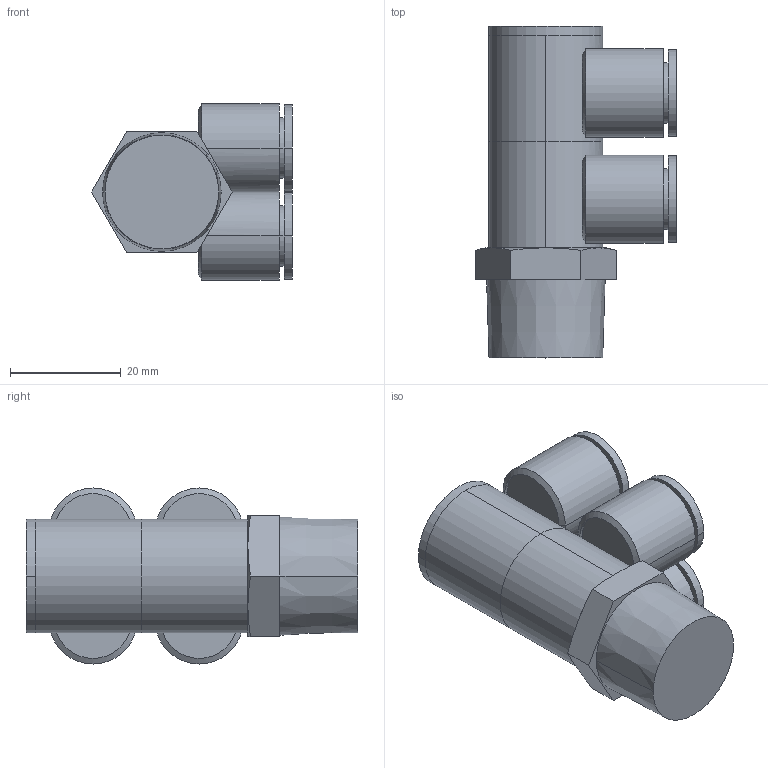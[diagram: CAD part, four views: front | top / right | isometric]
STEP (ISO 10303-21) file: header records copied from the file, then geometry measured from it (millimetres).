
FILE_DESCRIPTION (( 'STEP AP203' ), '1' );
FILE_NAME ('FZD10-04.STEP', '2020-05-11T14:49:35', ( '' ), ( '' ), 'SwSTEP 2.0', 'SolidWorks 2019', '' );
FILE_SCHEMA (( 'CONFIG_CONTROL_DESIGN' ));
Length unit declared in the file: millimetre
Products named in the file (1): FZD10-04
Bounding box: 36.3 x 60 x 31.85 mm (x, y, z)
Volume: 27740.6 mm3; surface area: 16084.6 mm2
Topology: 3 solids, 3 shells, 114 faces, 250 edges, 159 vertices
Faces by surface type: cylinder 60, plane 33, cone 21
Entity records: 3918 total; most frequent: CARTESIAN_POINT 1272, DIRECTION 575, ORIENTED_EDGE 500, EDGE_CURVE 250, AXIS2_PLACEMENT_3D 246, VERTEX_POINT 159, EDGE_LOOP 135, CIRCLE 131
